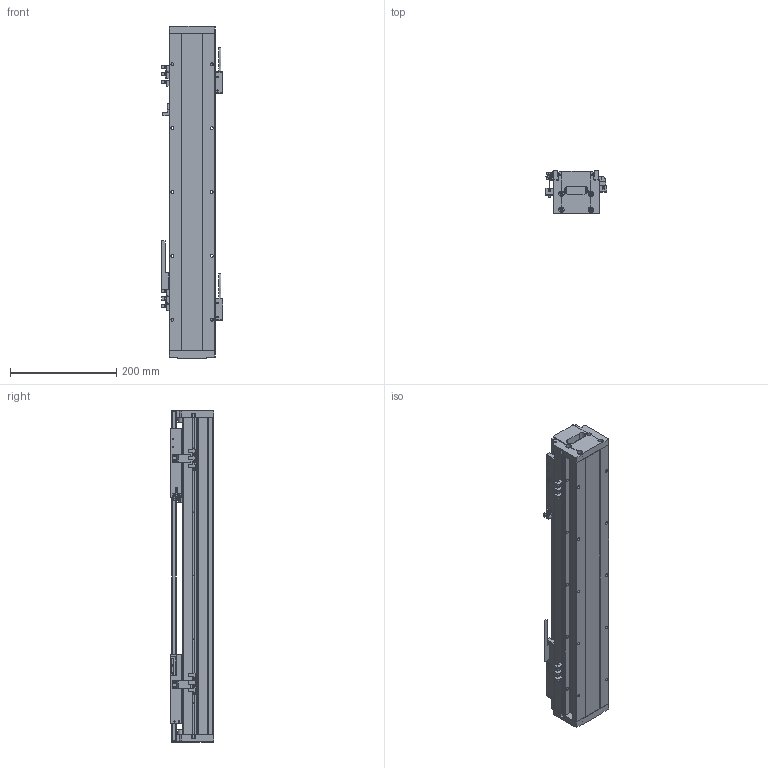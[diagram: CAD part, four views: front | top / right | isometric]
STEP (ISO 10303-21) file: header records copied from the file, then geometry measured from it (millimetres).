
FILE_DESCRIPTION (( 'STEP AP214' ), '1' );
FILE_NAME ('STC086-A-P-0426-2F105-MB-010-0.3.STEP', '2023-05-11T03:11:25', ( '' ), ( '' ), 'SwSTEP 2.0', 'SolidWorks 2018', '' );
FILE_SCHEMA (( 'AUTOMOTIVE_DESIGN' ));
Length unit declared in the file: millimetre
Products named in the file (62): HC-U-02-Lxxx棠掑喜; SE040隅赽; STK080-F105賑怢蚾饜极-1; SF-202NA-W（光电开关）; 086-Lxxxx菁釱; STK013-01（磁栅压块）; 賑輸SRS12M; LMD-2-R001-V5-L0.3-C0-F00（磁栅编码器）; STK0086-001（086读头固定块）; SL-205NA-W（光电开关）; STK0095-001（多动子感应片）; 蝶菜17x14x10; SKT0112-02（线缆固定件）; STK0066-001（086端盖）; 絳寢SRS12M+xxxxL-G10; 086-SE1-040-S賑怢; STC086-A-P-0426-2F105-MB-010-0.3; STK080-F105賑怢蚾饜极; 086-Lxxxx裔啣; STK0112-01（感应片）(默认)
Assembly tree (44 placements, depth 3):
  SE040隅赽
  SF-202NA-W（光电开关）
  086-Lxxxx菁釱
  SF-202NA-W（光电开关）
  賑輸SRS12M
Bounding box: 115.7 x 81 x 624 mm (x, y, z)
Volume: 2441672 mm3; surface area: 749126 mm2
Topology: 42 solids, 42 shells, 3183 faces, 8596 edges, 5450 vertices
Faces by surface type: plane 1636, cylinder 1204, cone 289, torus 24, bspline 22, sphere 8
Entity records: 50986 total; most frequent: CARTESIAN_POINT 10231, ORIENTED_EDGE 8202, DIRECTION 8117, EDGE_CURVE 4101, AXIS2_PLACEMENT_3D 2753, VERTEX_POINT 2677, VECTOR 2611, LINE 2611
